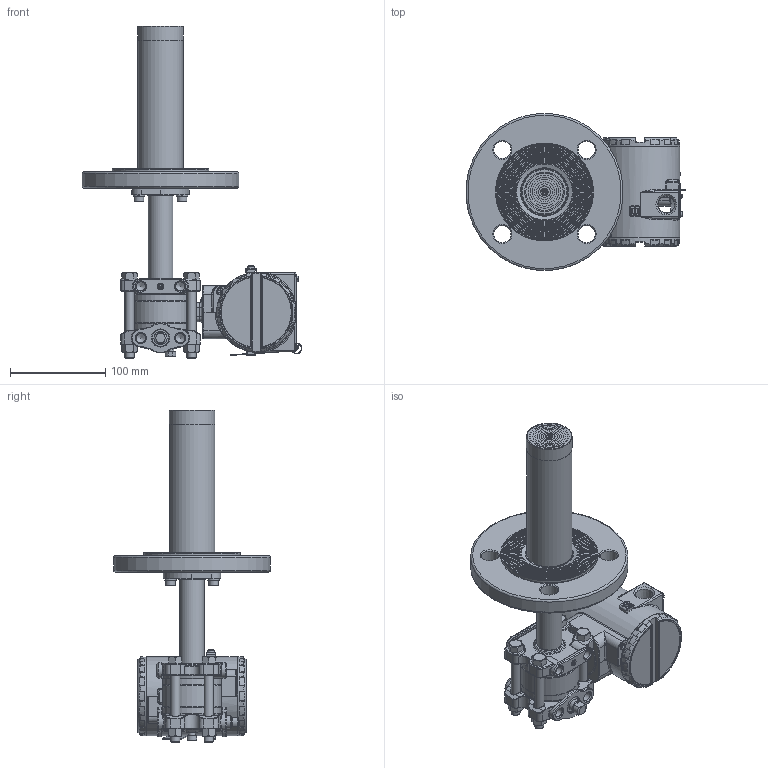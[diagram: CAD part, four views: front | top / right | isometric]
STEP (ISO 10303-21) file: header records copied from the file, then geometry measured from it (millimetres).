
FILE_DESCRIPTION(/* description */ (''),/* implementation_level */ '2;1');
FILE_NAME(/* name */ 'F:\Area\Desenvolvimento_2\Projects\Sensor\projetos\LD30X\montagens 3d - clientes\SELO NIVEL\LD30XL DN50 PN40 RF ext 150 ref 1-4NPT purga acima.stp',/* time_stamp */ '2023-02-15T11:15:45-03:00',/* author */ ('inventor02'),/* organization */ (''),/* preprocessor_version */ 'ST-DEVELOPER v17',/* originating_system */ 'Autodesk Inventor 2019',/* authorisation */ '');
FILE_SCHEMA (('CONFIG_CONTROL_DESIGN'));
Products named in the file (41): LD30XL DN50 PN40 RF ext 150 ref 1-4NPT purga acima; 204-0301-L-DN50 PN40 RF ext 150 purga acima; nivel fx3 com baixa diferencial 1-4NPT purga acima; involucro fx0-3 apos a usinagem final; flange diferencial std purga; 101-C-7484-01 flange selo nivel VR; 201-A-0504-tubo união teste 1; bujao 1-4NPT; Sangria; Porca 3-8 x 16 UNC; Paraf. 3-8 x 16 UNC; adaptação tubo x flanges 1-1-2 a 4pol; 101-B-0161-anel cortado do tubo - teste1; 101-B-0162-flange fixação tubo; ANSI B18.3.1M - M6x1 x 16; DIN 127 - A 6; flange DN50 PN40 ext 150; 101-C-0134-10; 101-B-7700-01-150; 101-B-0168-11; carcaça vazia com tampas e plaqueta; carcaça LD inox sem letras; Subconjunto plaqueta 300; Plaqueta transmissor; Parafuso da Plaqueta; Rebite da Plaqueta; 096-A-0169-03; 101-A-0502-01; Chapa aterramento externo; ISO 1207 - M4 x 8; DIN 915 - M6 x 10; ANSI B18.3.1M - M4x0,7 x 8; Subconjunto tampa com visor aluminio; tampa pintada; VIDRO DO VISOR; oring 41x1 vidro tampa; Trava do vidro da tampa com visor; trava do vidro VH256; Subconjunto tampa sem visor-aluminio; tampa cega 300 pintada p0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
Assembly tree (51 placements, depth 4):
  LD30XL DN50 PN40 RF ext 150 ref 1-4NPT purga acima
    204-0301-L-DN50 PN40 RF ext 150 purga acima
      nivel fx3 com baixa diferencial 1-4NPT purga acima
        involucro fx0-3 apos a usinagem final
        flange diferencial std purga
        101-C-7484-01 flange selo nivel VR
        201-A-0504-tubo união teste 1
        DIN 915 - M6 x 10
        bujao 1-4NPT
        Sangria
        Porca 3-8 x 16 UNC  x4
        Paraf. 3-8 x 16 UNC  x4
      adaptação tubo x flanges 1-1-2 a 4pol
        101-B-0161-anel cortado do tubo - teste1
        101-B-0162-flange fixação tubo
        ANSI B18.3.1M - M6x1 x 16  x2
        DIN 127 - A 6  x2
      flange DN50 PN40 ext 150
        101-C-0134-10
        101-B-7700-01-150
        101-B-0168-11
    carcaça vazia com tampas e plaqueta
      carcaça LD inox sem letras
      Subconjunto plaqueta 300
        Plaqueta transmissor
        Parafuso da Plaqueta
        Rebite da Plaqueta
        096-A-0169-03
        101-A-0502-01
      Chapa aterramento externo
      ISO 1207 - M4 x 8
      DIN 915 - M6 x 10
      ANSI B18.3.1M - M4x0,7 x 8  x2
      Subconjunto tampa com visor aluminio
        tampa pintada
        VIDRO DO VISOR
        oring 41x1 vidro tampa
        Trava do vidro da tampa com visor
        trava do vidro VH256
        00034775-0
      Subconjunto tampa sem visor-aluminio
        tampa cega 300 pintada p0
        00034775-0
Bounding box: 230.47 x 164.37 x 348.3 mm (x, y, z)
Volume: 1052865.6 mm3; surface area: 355389.2 mm2
Topology: 43 solids, 43 shells, 2762 faces, 6590 edges, 3902 vertices
Faces by surface type: bspline 666, cylinder 656, plane 578, torus 488, cone 248, sphere 126
Full cylindrical faces by diameter (mm): 2 x4, 2.1 x2, 2.459 x5, 2.5 x1, 2.642 x1, 2.7 x1, 2.8 x1, 3 x4, 3.242 x4, 3.5 x5, 3.571 x1, 4 x5, 4.3 x1, 4.4 x1, 4.917 x4, 5 x1, 5.5 x3, 6 x6, 6.647 x1, 7 x7, 7.087 x2, 7.6 x2, 7.798 x4, 8 x1, 8.7 x2, 9.525 x4, 9.728 x6, 10 x2, 10.5 x8, 10.719 x2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
Entity records: 95089 total; most frequent: CARTESIAN_POINT 34703, DIRECTION 12483, ORIENTED_EDGE 12360, EDGE_CURVE 6180, AXIS2_PLACEMENT_3D 5520, VERTEX_POINT 3708, CIRCLE 3268, EDGE_LOOP 2820
